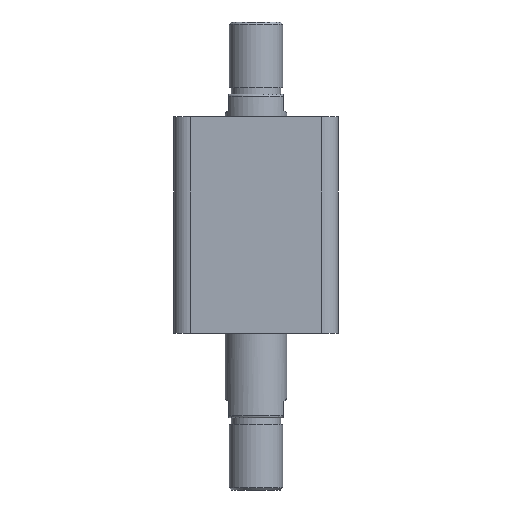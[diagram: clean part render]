
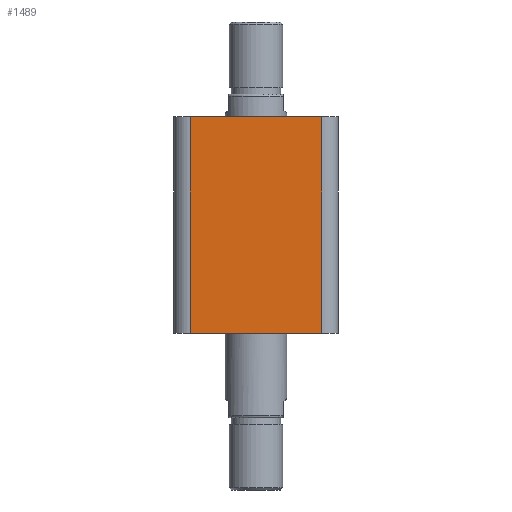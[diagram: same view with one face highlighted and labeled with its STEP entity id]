
A CAD part, front view. The second image highlights one B-rep face of the part: STEP entity #1489.
In plain terms, the highlighted planar face has unit normal (0, -1, 0).
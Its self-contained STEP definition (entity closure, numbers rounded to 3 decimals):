
#222 = FACE_OUTER_BOUND ( 'NONE', #504, .T. ) ;
#504 = EDGE_LOOP ( 'NONE', ( #1225, #1226, #1227, #1228 ) ) ;
#569 = VERTEX_POINT ( 'NONE', #3220 ) ;
#570 = VERTEX_POINT ( 'NONE', #3223 ) ;
#573 = VERTEX_POINT ( 'NONE', #3225 ) ;
#614 = VERTEX_POINT ( 'NONE', #3266 ) ;
#819 = LINE ( 'NONE', #2620, #832 ) ;
#825 = LINE ( 'NONE', #2630, #828 ) ;
#827 = LINE ( 'NONE', #2632, #830 ) ;
#828 = VECTOR ( 'NONE', #2631, 1000. ) ;
#830 = VECTOR ( 'NONE', #2633, 1000. ) ;
#831 = LINE ( 'NONE', #2635, #834 ) ;
#832 = VECTOR ( 'NONE', #2634, 1000. ) ;
#834 = VECTOR ( 'NONE', #2636, 1000. ) ;
#1225 = ORIENTED_EDGE ( 'NONE', *, *, #1667, .F. ) ;
#1226 = ORIENTED_EDGE ( 'NONE', *, *, #1668, .T. ) ;
#1227 = ORIENTED_EDGE ( 'NONE', *, *, #1669, .T. ) ;
#1228 = ORIENTED_EDGE ( 'NONE', *, *, #1670, .T. ) ;
#1489 = ADVANCED_FACE ( 'NONE', ( #222 ), #1839, .F. ) ;
#1667 = EDGE_CURVE ( 'NONE', #614, #573, #825, .T. ) ;
#1668 = EDGE_CURVE ( 'NONE', #614, #570, #827, .T. ) ;
#1669 = EDGE_CURVE ( 'NONE', #570, #569, #819, .T. ) ;
#1670 = EDGE_CURVE ( 'NONE', #569, #573, #831, .T. ) ;
#1837 = CARTESIAN_POINT ( 'NONE',  ( -40., -40., 105. ) ) ;
#1839 = PLANE ( 'NONE',  #2318 ) ;
#1842 = DIRECTION ( 'NONE',  ( 0., 1., 0. ) ) ;
#1843 = DIRECTION ( 'NONE',  ( 0., 0., 1. ) ) ;
#2318 = AXIS2_PLACEMENT_3D ( 'NONE', #1837, #1842, #1843 ) ;
#2620 = CARTESIAN_POINT ( 'NONE',  ( -40., -40., 0. ) ) ;
#2630 = CARTESIAN_POINT ( 'NONE',  ( -40., -40., 105. ) ) ;
#2631 = DIRECTION ( 'NONE',  ( 1., 0., 0. ) ) ;
#2632 = CARTESIAN_POINT ( 'NONE',  ( -32., -40., 105. ) ) ;
#2633 = DIRECTION ( 'NONE',  ( 0., 0., -1. ) ) ;
#2634 = DIRECTION ( 'NONE',  ( 1., 0., 0. ) ) ;
#2635 = CARTESIAN_POINT ( 'NONE',  ( 32., -40., 105. ) ) ;
#2636 = DIRECTION ( 'NONE',  ( 0., 0., 1. ) ) ;
#3220 = CARTESIAN_POINT ( 'NONE',  ( 32., -40., 0. ) ) ;
#3223 = CARTESIAN_POINT ( 'NONE',  ( -32., -40., 0. ) ) ;
#3225 = CARTESIAN_POINT ( 'NONE',  ( 32., -40., 105. ) ) ;
#3266 = CARTESIAN_POINT ( 'NONE',  ( -32., -40., 105. ) ) ;
